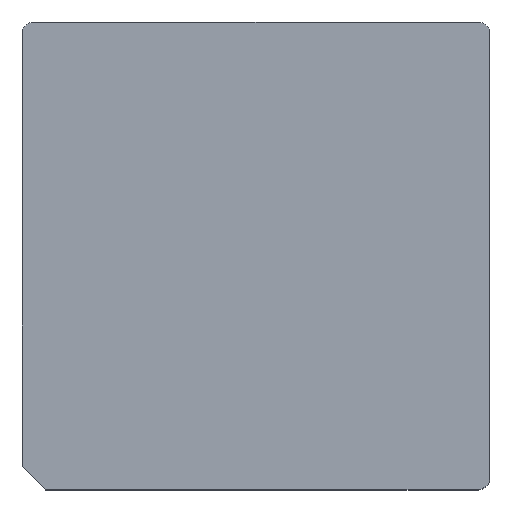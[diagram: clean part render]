
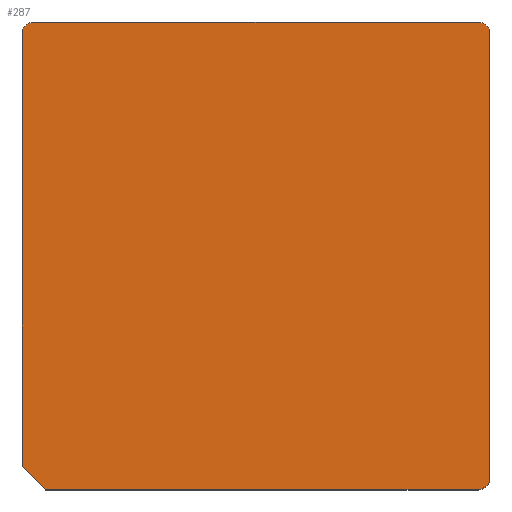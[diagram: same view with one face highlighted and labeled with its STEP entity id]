
A CAD part, top view. The second image highlights one B-rep face of the part: STEP entity #287.
In plain terms, the highlighted planar face has unit normal (0, 0, 1).
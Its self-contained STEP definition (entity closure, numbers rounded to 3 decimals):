
#98 = VERTEX_POINT('',#99);
#99 = CARTESIAN_POINT('',(10.,-9.5,11.6));
#105 = EDGE_CURVE('',#98,#106,#108,.T.);
#106 = VERTEX_POINT('',#107);
#107 = CARTESIAN_POINT('',(10.,9.5,11.6));
#108 = LINE('',#109,#110);
#109 = CARTESIAN_POINT('',(10.,-10.,11.6));
#110 = VECTOR('',#111,1.);
#111 = DIRECTION('',(0.,1.,0.));
#129 = VERTEX_POINT('',#130);
#130 = CARTESIAN_POINT('',(9.5,10.,11.6));
#136 = EDGE_CURVE('',#106,#129,#137,.T.);
#137 = CIRCLE('',#138,0.5);
#138 = AXIS2_PLACEMENT_3D('',#139,#140,#141);
#139 = CARTESIAN_POINT('',(9.5,9.5,11.6));
#140 = DIRECTION('',(-0.,0.,1.));
#141 = DIRECTION('',(0.,-1.,0.));
#154 = EDGE_CURVE('',#155,#98,#157,.T.);
#155 = VERTEX_POINT('',#156);
#156 = CARTESIAN_POINT('',(9.5,-10.,11.6));
#157 = CIRCLE('',#158,0.5);
#158 = AXIS2_PLACEMENT_3D('',#159,#160,#161);
#159 = CARTESIAN_POINT('',(9.5,-9.5,11.6));
#160 = DIRECTION('',(-0.,0.,1.));
#161 = DIRECTION('',(0.,-1.,0.));
#179 = EDGE_CURVE('',#129,#180,#182,.T.);
#180 = VERTEX_POINT('',#181);
#181 = CARTESIAN_POINT('',(-9.5,10.,11.6));
#182 = LINE('',#183,#184);
#183 = CARTESIAN_POINT('',(10.,10.,11.6));
#184 = VECTOR('',#185,1.);
#185 = DIRECTION('',(-1.,0.,0.));
#203 = VERTEX_POINT('',#204);
#204 = CARTESIAN_POINT('',(-9.,-10.,11.6));
#210 = EDGE_CURVE('',#203,#155,#211,.T.);
#211 = LINE('',#212,#213);
#212 = CARTESIAN_POINT('',(-10.,-10.,11.6));
#213 = VECTOR('',#214,1.);
#214 = DIRECTION('',(1.,0.,0.));
#227 = EDGE_CURVE('',#228,#180,#230,.T.);
#228 = VERTEX_POINT('',#229);
#229 = CARTESIAN_POINT('',(-10.,9.5,11.6));
#230 = CIRCLE('',#231,0.5);
#231 = AXIS2_PLACEMENT_3D('',#232,#233,#234);
#232 = CARTESIAN_POINT('',(-9.5,9.5,11.6));
#233 = DIRECTION('',(-0.,-0.,-1.));
#234 = DIRECTION('',(0.,-1.,0.));
#252 = VERTEX_POINT('',#253);
#253 = CARTESIAN_POINT('',(-10.,-9.,11.6));
#259 = EDGE_CURVE('',#252,#203,#260,.T.);
#260 = LINE('',#261,#262);
#261 = CARTESIAN_POINT('',(-9.5,-9.5,11.6));
#262 = VECTOR('',#263,1.);
#263 = DIRECTION('',(0.707,-0.707,0.));
#276 = EDGE_CURVE('',#228,#252,#277,.T.);
#277 = LINE('',#278,#279);
#278 = CARTESIAN_POINT('',(-10.,10.,11.6));
#279 = VECTOR('',#280,1.);
#280 = DIRECTION('',(0.,-1.,0.));
#287 = ADVANCED_FACE('',(#288),#298,.T.);
#288 = FACE_BOUND('',#289,.T.);
#289 = EDGE_LOOP('',(#290,#291,#292,#293,#294,#295,#296,#297));
#290 = ORIENTED_EDGE('',*,*,#105,.T.);
#291 = ORIENTED_EDGE('',*,*,#136,.T.);
#292 = ORIENTED_EDGE('',*,*,#179,.T.);
#293 = ORIENTED_EDGE('',*,*,#227,.F.);
#294 = ORIENTED_EDGE('',*,*,#276,.T.);
#295 = ORIENTED_EDGE('',*,*,#259,.T.);
#296 = ORIENTED_EDGE('',*,*,#210,.T.);
#297 = ORIENTED_EDGE('',*,*,#154,.T.);
#298 = PLANE('',#299);
#299 = AXIS2_PLACEMENT_3D('',#300,#301,#302);
#300 = CARTESIAN_POINT('',(0.,0.,11.6));
#301 = DIRECTION('',(0.,0.,1.));
#302 = DIRECTION('',(1.,0.,0.));
